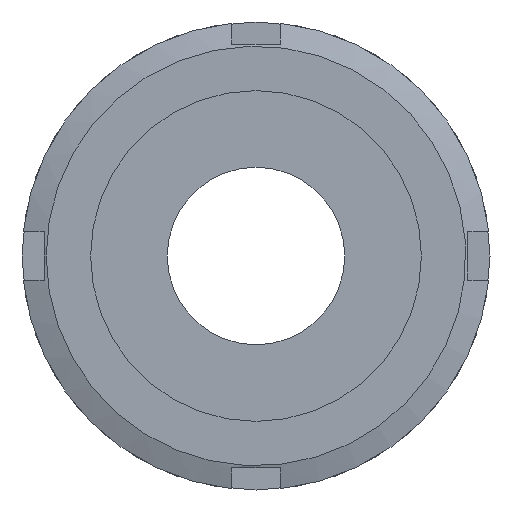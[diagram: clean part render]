
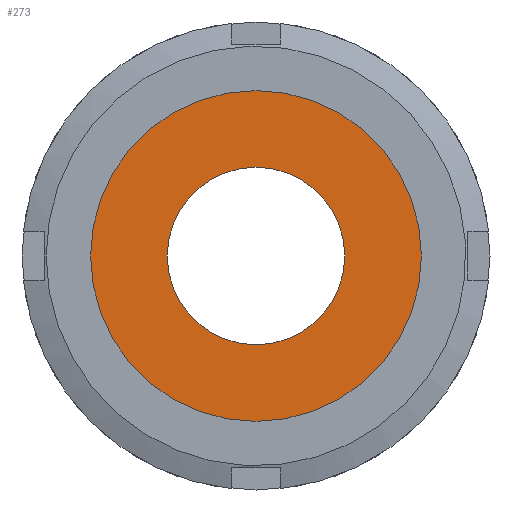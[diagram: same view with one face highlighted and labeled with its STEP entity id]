
A CAD part, left-side view. The second image highlights one B-rep face of the part: STEP entity #273.
In plain terms, the highlighted planar face has unit normal (-1, 0, 0) as drawn and (0, -1, 0) by its records, which use the part's own axes.
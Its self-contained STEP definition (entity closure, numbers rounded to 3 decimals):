
#273 = ADVANCED_FACE( '', ( #402, #403 ), #404, .T. );
#402 = FACE_OUTER_BOUND( '', #610, .T. );
#403 = FACE_BOUND( '', #611, .T. );
#404 = PLANE( '', #612 );
#610 = EDGE_LOOP( '', ( #961 ) );
#611 = EDGE_LOOP( '', ( #962 ) );
#612 = AXIS2_PLACEMENT_3D( '', #963, #964, #965 );
#961 = ORIENTED_EDGE( '', *, *, #1422, .T. );
#962 = ORIENTED_EDGE( '', *, *, #1423, .F. );
#963 = CARTESIAN_POINT( '', ( 11., 0., 0. ) );
#964 = DIRECTION( '', ( 0., -1., 0. ) );
#965 = DIRECTION( '', ( 0., 0., -1. ) );
#1422 = EDGE_CURVE( '', #1649, #1649, #1650, .T. );
#1423 = EDGE_CURVE( '', #1651, #1651, #1652, .T. );
#1649 = VERTEX_POINT( '', #2105 );
#1650 = CIRCLE( '', #2106, 20.5 );
#1651 = VERTEX_POINT( '', #2107 );
#1652 = CIRCLE( '', #2108, 11. );
#2105 = CARTESIAN_POINT( '', ( 0., 0., -20.5 ) );
#2106 = AXIS2_PLACEMENT_3D( '', #2580, #2581, #2582 );
#2107 = CARTESIAN_POINT( '', ( 0., 0., -11. ) );
#2108 = AXIS2_PLACEMENT_3D( '', #2583, #2584, #2585 );
#2580 = CARTESIAN_POINT( '', ( 0., 0., 0. ) );
#2581 = DIRECTION( '', ( 0., -1., 0. ) );
#2582 = DIRECTION( '', ( 0., 0., -1. ) );
#2583 = CARTESIAN_POINT( '', ( 0., 0., 0. ) );
#2584 = DIRECTION( '', ( 0., -1., 0. ) );
#2585 = DIRECTION( '', ( 0., 0., -1. ) );
